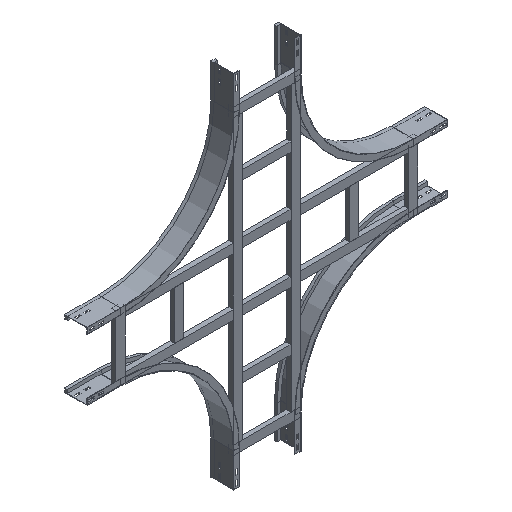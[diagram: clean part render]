
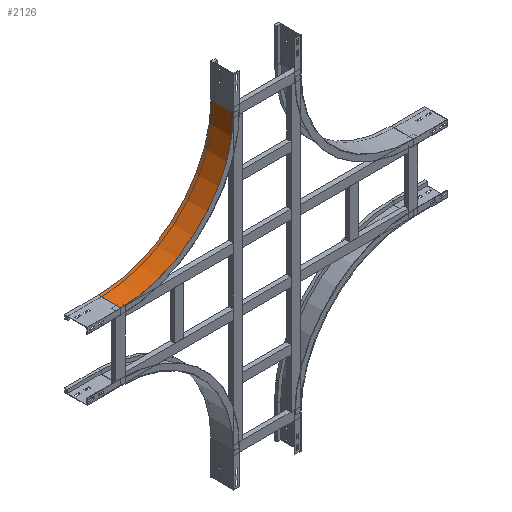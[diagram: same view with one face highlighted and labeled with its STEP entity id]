
A CAD part, isometric view. The second image highlights one B-rep face of the part: STEP entity #2126.
In plain terms, the highlighted cylindrical face has radius 500 mm (diameter 1000 mm), a partial arc.
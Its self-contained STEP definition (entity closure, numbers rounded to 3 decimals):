
#260 = CARTESIAN_POINT ( 'NONE',  ( 500., 100., -150. ) ) ;
#368 = AXIS2_PLACEMENT_3D ( 'NONE', #914, #653, #485 ) ;
#485 = DIRECTION ( 'NONE',  ( 0., 0., -1. ) ) ;
#608 = DIRECTION ( 'NONE',  ( -1., 0., 0. ) ) ;
#653 = DIRECTION ( 'NONE',  ( 0., -1., 0. ) ) ;
#726 = CARTESIAN_POINT ( 'NONE',  ( 500., 0., -650. ) ) ;
#727 = CARTESIAN_POINT ( 'NONE',  ( 0., 100., -150. ) ) ;
#914 = CARTESIAN_POINT ( 'NONE',  ( 500., 0., -150. ) ) ;
#943 = ORIENTED_EDGE ( 'NONE', *, *, #1909, .F. ) ;
#992 = DIRECTION ( 'NONE',  ( 0., 1., 0. ) ) ;
#1023 = LINE ( 'NONE', #1187, #1745 ) ;
#1133 = ORIENTED_EDGE ( 'NONE', *, *, #2002, .T. ) ;
#1187 = CARTESIAN_POINT ( 'NONE',  ( 0., 0., -150. ) ) ;
#1226 = CARTESIAN_POINT ( 'NONE',  ( 500., 100., -650. ) ) ;
#1258 = DIRECTION ( 'NONE',  ( 0., 1., 0. ) ) ;
#1319 = CIRCLE ( 'NONE', #2227, 500. ) ;
#1405 = CIRCLE ( 'NONE', #1940, 500. ) ;
#1448 = VECTOR ( 'NONE', #1258, 1000. ) ;
#1496 = EDGE_CURVE ( 'NONE', #2573, #2359, #1319, .T. ) ;
#1577 = DIRECTION ( 'NONE',  ( 0., -1., 0. ) ) ;
#1733 = CARTESIAN_POINT ( 'NONE',  ( 500., 0., -650. ) ) ;
#1745 = VECTOR ( 'NONE', #992, 1000. ) ;
#1751 = CARTESIAN_POINT ( 'NONE',  ( 500., 0., -150. ) ) ;
#1852 = EDGE_LOOP ( 'NONE', ( #2219, #943, #2510, #1133 ) ) ;
#1909 = EDGE_CURVE ( 'NONE', #2248, #2573, #1023, .T. ) ;
#1940 = AXIS2_PLACEMENT_3D ( 'NONE', #1751, #2648, #608 ) ;
#2002 = EDGE_CURVE ( 'NONE', #2260, #2359, #2603, .T. ) ;
#2112 = EDGE_CURVE ( 'NONE', #2248, #2260, #1405, .T. ) ;
#2126 = ADVANCED_FACE ( 'NONE', ( #2691 ), #2675, .F. ) ;
#2219 = ORIENTED_EDGE ( 'NONE', *, *, #1496, .F. ) ;
#2227 = AXIS2_PLACEMENT_3D ( 'NONE', #260, #1577, #2753 ) ;
#2248 = VERTEX_POINT ( 'NONE', #2704 ) ;
#2260 = VERTEX_POINT ( 'NONE', #726 ) ;
#2359 = VERTEX_POINT ( 'NONE', #1226 ) ;
#2510 = ORIENTED_EDGE ( 'NONE', *, *, #2112, .T. ) ;
#2573 = VERTEX_POINT ( 'NONE', #727 ) ;
#2603 = LINE ( 'NONE', #1733, #1448 ) ;
#2648 = DIRECTION ( 'NONE',  ( 0., -1., 0. ) ) ;
#2675 = CYLINDRICAL_SURFACE ( 'NONE', #368, 500. ) ;
#2691 = FACE_OUTER_BOUND ( 'NONE', #1852, .T. ) ;
#2704 = CARTESIAN_POINT ( 'NONE',  ( 0., 0., -150. ) ) ;
#2753 = DIRECTION ( 'NONE',  ( -1., 0., 0. ) ) ;
